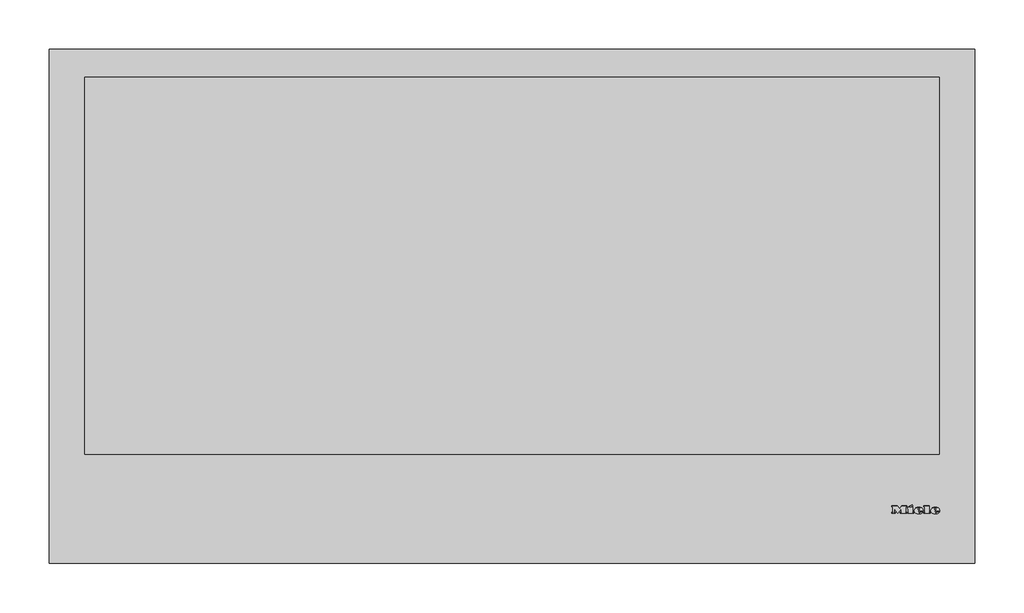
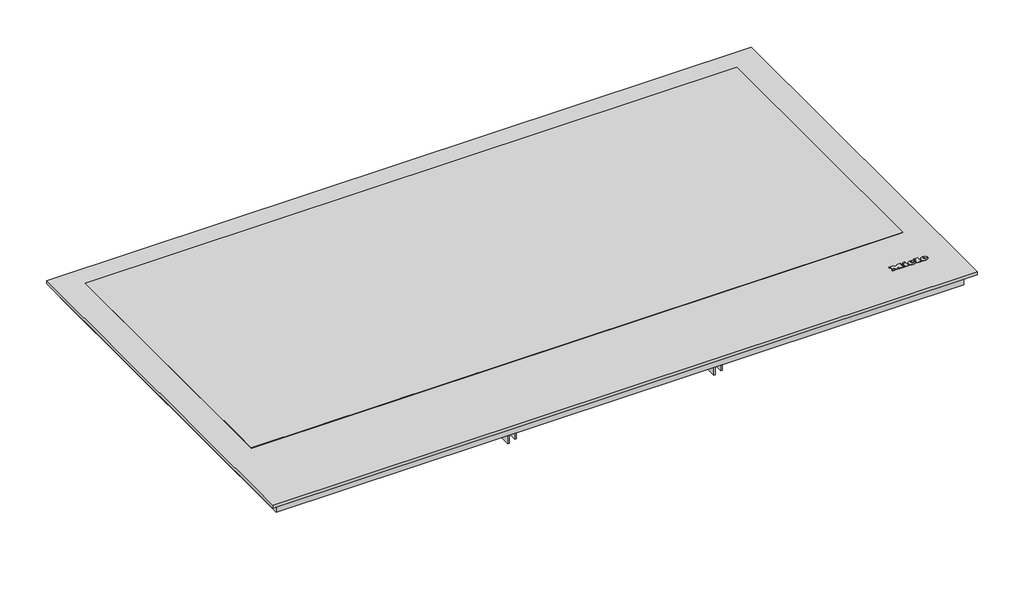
# Not in any storey: 1 proxy.
"""IFC4 building model written with IfcOpenShell, lengths in millimetres."""

import ifcopenshell
import ifcopenshell.guid

model = None  # the IFC model being written
_history = None  # IfcOwnerHistory: only IFC2X3 demands one
_inside = {}  # id of a spatial element -> (the spatial element, [elements in it])
_under = {}  # id of a project, library or spatial element -> (it, [spatial elements below it])
_declared = {}  # id of a project -> (the project, [libraries it declares])
_typed = {}  # id of a type object -> (the type object, [elements of that type])
_made_of = {}  # id of a material, layer set ... -> (it, [elements and type objects made of it])


def new_model(schema):
    """Start an empty IFC model of exactly this schema.

    Asked for "IFC4X3", IfcOpenShell would pick the latest addendum, in which some entities
    have other attributes; the version numbers below select the first issue.
    IFC2X3 requires an IfcOwnerHistory on every rooted entity: one is made here for all.
    """
    global model, _history
    if schema == "IFC4X3":
        model = ifcopenshell.file(schema_version=(4, 3, 0, 0))
    else:
        model = ifcopenshell.file(schema=schema)
    _inside.clear()
    _under.clear()
    _declared.clear()
    _typed.clear()
    _made_of.clear()
    _history = None
    if model.schema == "IFC2X3":
        org = make("IfcOrganization", Name="unknown")
        user = make(
            "IfcPersonAndOrganization",
            ThePerson=make("IfcPerson", FamilyName="unknown"),
            TheOrganization=org,
        )
        app = make(
            "IfcApplication",
            ApplicationDeveloper=org,
            Version="unknown",
            ApplicationFullName="unknown",
            ApplicationIdentifier="unknown",
        )
        _history = make(
            "IfcOwnerHistory",
            OwningUser=user,
            OwningApplication=app,
            ChangeAction="ADDED",
            CreationDate=0,
        )
    return model


def make(cls, **values):
    """One entity of the class cls with the attributes given. An attribute that is None is left unset."""
    return model.create_entity(
        cls, **{name: value for name, value in values.items() if value is not None}
    )


def rooted(cls, **values):
    """An entity with a GlobalId (a new one), such as an element, a storey or a relation."""
    return make(cls, GlobalId=ifcopenshell.guid.new(), OwnerHistory=_history, **values)


def si_unit(unit_type, name, prefix=None):
    """IfcSIUnit, for example si_unit("LENGTHUNIT", "METRE", prefix="MILLI")."""
    return make("IfcSIUnit", UnitType=unit_type, Prefix=prefix, Name=name)


def assignment(units):
    """IfcUnitAssignment: the units of a project."""
    return None if units is None else make("IfcUnitAssignment", Units=units)


def point(xyz):
    """IfcCartesianPoint."""
    return None if xyz is None else make("IfcCartesianPoint", Coordinates=xyz)


def direction(xyz):
    """IfcDirection."""
    return None if xyz is None else make("IfcDirection", DirectionRatios=xyz)


def frame(location, z_axis=None, x_axis=None):
    """IfcAxis2Placement3D, a coordinate frame: its origin and axes. An axis left out is left unset."""
    return make(
        "IfcAxis2Placement3D",
        Location=point(location),
        Axis=direction(z_axis),
        RefDirection=direction(x_axis),
    )


def frame_2d(location, x_axis=None):
    """IfcAxis2Placement2D, a coordinate frame in the plane: its origin and x axis."""
    return make(
        "IfcAxis2Placement2D", Location=point(location), RefDirection=direction(x_axis)
    )


def origin():
    """The frame at (0, 0, 0) with its axes left unset."""
    return frame((0.0, 0.0, 0.0))


def origin_with_axes():
    """The frame at (0, 0, 0) with the z axis (0, 0, 1) and the x axis (1, 0, 0) written out."""
    return frame((0.0, 0.0, 0.0), z_axis=(0.0, 0.0, 1.0), x_axis=(1.0, 0.0, 0.0))


def place(relative_to, where):
    """IfcLocalPlacement: puts the frame where relative to a parent placement (None: the world)."""
    return make(
        "IfcLocalPlacement", PlacementRelTo=relative_to, RelativePlacement=where
    )


def context(
    kind, dimensions, precision=None, world=None, true_north=None, identifier=None
):
    """IfcGeometricRepresentationContext, for example the 3D "Model" context."""
    return make(
        "IfcGeometricRepresentationContext",
        ContextIdentifier=identifier,
        ContextType=kind,
        CoordinateSpaceDimension=dimensions,
        Precision=precision,
        WorldCoordinateSystem=world,
        TrueNorth=true_north,
    )


def project(units=None, contexts=None):
    """IfcProject with its units and contexts."""
    return rooted(
        "IfcProject",
        Name="project",
        RepresentationContexts=contexts,
        UnitsInContext=assignment(units),
    )


def spatial(cls, under=None, at=None, **own):
    """A site, building, storey or space (cls), placed at a placement, below another one or the project."""
    s = rooted(cls, ObjectPlacement=at, **own)
    if under is not None:
        _under.setdefault(under.id(), (under, []))[1].append(s)
    return s


def polyline(points):
    """IfcPolyline through the points."""
    return make("IfcPolyline", Points=[point(p) for p in points])


def circle_curve(where, radius):
    """IfcCircle in the frame where."""
    return make("IfcCircle", Position=where, Radius=radius)


def ellipse_curve(where, semi_axis1, semi_axis2):
    """IfcEllipse in the frame where."""
    return make(
        "IfcEllipse", Position=where, SemiAxis1=semi_axis1, SemiAxis2=semi_axis2
    )


def trimmed(basis, trim1, trim2, sense, master):
    """IfcTrimmedCurve: the piece of a basis curve between two trims."""
    return make(
        "IfcTrimmedCurve",
        BasisCurve=basis,
        Trim1=trim1,
        Trim2=trim2,
        SenseAgreement=sense,
        MasterRepresentation=master,
    )


def segment(curve, same_sense, transition):
    """IfcCompositeCurveSegment."""
    return make(
        "IfcCompositeCurveSegment",
        Transition=transition,
        SameSense=same_sense,
        ParentCurve=curve,
    )


def composite_curve(segments, self_intersect=None):
    """IfcCompositeCurve: segments joined end to end."""
    return make("IfcCompositeCurve", Segments=segments, SelfIntersect=self_intersect)


def outline(outer, holes=None, kind="AREA"):
    """IfcArbitraryClosedProfileDef: a profile drawn as a closed curve; with holes, ...WithVoids."""
    if holes is None:
        return make("IfcArbitraryClosedProfileDef", ProfileType=kind, OuterCurve=outer)
    return make(
        "IfcArbitraryProfileDefWithVoids",
        ProfileType=kind,
        OuterCurve=outer,
        InnerCurves=holes,
    )


def extrude(swept, where, along, depth):
    """IfcExtrudedAreaSolid: the profile swept, set in the frame where, extruded along a direction by depth."""
    return make(
        "IfcExtrudedAreaSolid",
        SweptArea=swept,
        Position=where,
        ExtrudedDirection=direction(along),
        Depth=depth,
    )


def shape(context_of_items, identifier, shape_type, items):
    """IfcShapeRepresentation: the items that make up one representation, for example the "Body"."""
    return make(
        "IfcShapeRepresentation",
        ContextOfItems=context_of_items,
        RepresentationIdentifier=identifier,
        RepresentationType=shape_type,
        Items=items,
    )


def source(mapping_origin, context_of_items, identifier, shape_type, items):
    """IfcRepresentationMap: a shape defined once, which mapped items show again and again."""
    return make(
        "IfcRepresentationMap",
        MappingOrigin=mapping_origin,
        MappedRepresentation=shape(context_of_items, identifier, shape_type, items),
    )


def transform(
    local_origin,
    x_axis=None,
    y_axis=None,
    z_axis=None,
    scale=None,
    scale2=None,
    scale3=None,
    uniform=True,
):
    """IfcCartesianTransformationOperator3D, or its non-uniform kind. x_axis, y_axis, z_axis: its Axis1, 2, 3."""
    if uniform:
        return make(
            "IfcCartesianTransformationOperator3D",
            Axis1=direction(x_axis),
            Axis2=direction(y_axis),
            LocalOrigin=point(local_origin),
            Scale=scale,
            Axis3=direction(z_axis),
        )
    return make(
        "IfcCartesianTransformationOperator3DnonUniform",
        Axis1=direction(x_axis),
        Axis2=direction(y_axis),
        LocalOrigin=point(local_origin),
        Scale=scale,
        Axis3=direction(z_axis),
        Scale2=scale2,
        Scale3=scale3,
    )


def mapped(mapping_source, mapping_target):
    """IfcMappedItem: shows the shape of a source again, moved by a transform."""
    return make(
        "IfcMappedItem", MappingSource=mapping_source, MappingTarget=mapping_target
    )


def made_of(thing, what):
    """Note that an element or type object is made of a material, layer set ...; save() writes the relation."""
    if what is not None:
        _made_of.setdefault(what.id(), (what, []))[1].append(thing)
    return thing


def element(
    cls,
    number,
    at=None,
    inside=None,
    cuts=None,
    type_object=None,
    material=None,
    context=None,
    identifier="Body",
    shape_type=None,
    held_by="IfcProductDefinitionShape",
    body=None,
    shapes=None,
    **own,
):
    """One element of the class cls, such as IfcWall. Its Tag is "e" and its number.

    at: its placement. inside: the storey or other place that contains it. cuts: it is an
    opening in that element (IfcRelVoidsElement). A single representation is given by context,
    identifier, shape_type and body (its items); several are given by shapes. held_by: the class
    of the entity that holds the representations. save() writes the other relations.
    """
    e = rooted(cls, Tag="e%d" % number, ObjectPlacement=at, **own)
    if body is not None:
        shapes = [shape(context, identifier, shape_type, body)]
    if shapes is not None:
        e.Representation = make(held_by, Representations=shapes)
    if inside is not None:
        _inside.setdefault(inside.id(), (inside, []))[1].append(e)
    if cuts is not None:
        rooted(
            "IfcRelVoidsElement", RelatingBuildingElement=cuts, RelatedOpeningElement=e
        )
    if type_object is not None:
        _typed.setdefault(type_object.id(), (type_object, []))[1].append(e)
    return made_of(e, material)


def aggregate(whole, parts):
    """IfcRelAggregates: a whole, such as a stair, and the parts it consists of."""
    return rooted("IfcRelAggregates", RelatingObject=whole, RelatedObjects=parts)


def save(model, path):
    """Write the relations noted so far, then the file.

    IfcRelAggregates (storeys below a building ...), IfcRelContainedInSpatialStructure (elements
    in a storey), IfcRelDefinesByType, IfcRelAssociatesMaterial and IfcRelDeclares: one each for
    every whole, place, type object, material and project.
    """
    for whole, parts in _under.values():
        aggregate(whole, parts)
    for where, things in _inside.values():
        rooted(
            "IfcRelContainedInSpatialStructure",
            RelatedElements=things,
            RelatingStructure=where,
        )
    for kind, things in _typed.values():
        rooted("IfcRelDefinesByType", RelatedObjects=things, RelatingType=kind)
    for what, things in _made_of.values():
        rooted("IfcRelAssociatesMaterial", RelatedObjects=things, RelatingMaterial=what)
    for by, libraries in _declared.values():
        rooted("IfcRelDeclares", RelatingContext=by, RelatedDefinitions=libraries)
    model.write(path)


def plane_surface(at):
    """IfcPlane: the flat surface through the origin of the frame at, square to its z axis."""
    return make("IfcPlane", Position=at)


def cylinder_surface(at, radius):
    """IfcCylindricalSurface: all points at the distance radius from the z axis of the frame at."""
    return make("IfcCylindricalSurface", Position=at, Radius=radius)


def revolved_surface(curve, axis_point, axis_direction):
    """IfcSurfaceOfRevolution: the curve turned about the line through axis_point along axis_direction."""
    return make(
        "IfcSurfaceOfRevolution",
        SweptCurve=make("IfcArbitraryOpenProfileDef", ProfileType="CURVE", Curve=curve),
        AxisPosition=make("IfcAxis1Placement", Location=point(axis_point), Axis=direction(axis_direction)),
    )


def extruded_surface(curve, direction_of_extrusion, depth):
    """IfcSurfaceOfLinearExtrusion: the curve pushed along a direction by depth."""
    return make(
        "IfcSurfaceOfLinearExtrusion",
        SweptCurve=make("IfcArbitraryOpenProfileDef", ProfileType="CURVE", Curve=curve),
        ExtrudedDirection=direction(direction_of_extrusion),
        Depth=depth,
    )


def advanced_brep(points, edges, surfaces, faces):
    """IfcAdvancedBrep: a solid bounded by faces that lie on surfaces and meet in shared edges.

    An edge is (start, end): straight between two places in points (the first is 0);
    or (start, end, curve); or (start, end, curve, False) where it runs against its curve.
    A face is (place in surfaces, loops), or (place, loops, False) where it looks against
    its surface's normal. A loop lists edges by number (the first is 1), with a minus sign
    where the edge is run from its end to its start. The first loop is the outer one.
    """
    corners = [point(p) for p in points]
    vertices = [make("IfcVertexPoint", VertexGeometry=c) for c in corners]
    made = []
    for start, end, *more in edges:
        made.append(
            make(
                "IfcEdgeCurve",
                EdgeStart=vertices[start],
                EdgeEnd=vertices[end],
                EdgeGeometry=more[0] if more else make("IfcPolyline", Points=[corners[start], corners[end]]),
                SameSense=more[1] if len(more) > 1 else True,
            )
        )
    hull = []
    for where, loops, *sense in faces:
        bounds = []
        for j, loop in enumerate(loops):
            ring = [make("IfcOrientedEdge", EdgeElement=made[abs(k) - 1], Orientation=k > 0) for k in loop]
            bounds.append(
                make(
                    "IfcFaceOuterBound" if j == 0 else "IfcFaceBound",
                    Bound=make("IfcEdgeLoop", EdgeList=ring),
                    Orientation=True,
                )
            )
        hull.append(make("IfcAdvancedFace", Bounds=bounds, FaceSurface=surfaces[where], SameSense=sense[0] if sense else True))
    return make("IfcAdvancedBrep", Outer=make("IfcClosedShell", CfsFaces=hull))


def specialty_equipment_4523ea2d(model_context):
    return source(origin(), model_context, "Body", "SolidModel", [
        advanced_brep(
        [(427.56, 52.3948833, 4.4802537), (427.56, 53.2028828, 4.4811551), (432.912, 53.2028828, 4.4811551), (423.6, 53.2028828, 4.4811551), (425.8, 50.4988845, 4.4781386), (432.776, 52.3948833, 4.4802537), (430.36, 52.3948833, 4.4802537), (428.456, 51.4988838, 4.4792542), (427.56, 54.2268821, 4.4822974), (427.56, 55.0988816, 4.4832701), (428.928, 55.0988816, 4.4832701), (428.928, 54.2268821, 4.4822974), (427.56, 52.3959988, 3.4802543), (428.456, 51.4999994, 3.4792548), (430.36, 52.3959988, 3.4802543), (432.776, 52.3959988, 3.4802543), (425.8, 50.5, 3.4781393), (423.6, 53.2039983, 3.4811557), (432.912, 53.2039983, 3.4811557), (427.56, 53.2039983, 3.4811557), (427.56, 54.2279977, 3.482298), (428.928, 54.2279977, 3.482298), (428.928, 55.0999971, 3.4832707), (427.56, 55.0999971, 3.4832707)],
        [
            (0, 1),
            (1, 2),
            (2, 3, ellipse_curve(frame((428.256, 53.2028828, 4.4811551), z_axis=(0.0, -0.0011155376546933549, 0.9999993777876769), x_axis=(-1.0, 0.0, 0.0)), 4.656, 3.848)),
            (3, 4, circle_curve(frame((426.6960436, 53.4748826, 4.4814585), z_axis=(0.0, -0.0011155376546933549, 0.9999993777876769), x_axis=(0.0, -0.9999993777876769, -0.0011155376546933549)), 3.1079688)),
            (4, 5, circle_curve(frame((428.1627936, 55.5868813, 4.4838145), z_axis=(0.0, -0.0011155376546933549, 0.9999993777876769), x_axis=(0.0, -0.9999993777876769, -0.0011155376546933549)), 5.6098607)),
            (5, 6),
            (6, 7, circle_curve(frame((428.8470588, 53.1388828, 4.4810837), z_axis=(0.0, 0.0011155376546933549, -0.9999993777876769), x_axis=(0.0, -0.9999993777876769, -0.0011155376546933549)), 1.6859795)),
            (7, 0, circle_curve(frame((428.456, 52.3948833, 4.4802537), z_axis=(0.0, 0.0011155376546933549, -0.9999993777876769), x_axis=(0.0, -0.9999993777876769, -0.0011155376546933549)), 0.896)),
            (8, 9),
            (9, 10, circle_curve(frame((428.244, 55.0988816, 4.4832701), z_axis=(0.0, 0.0011155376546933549, -0.9999993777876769), x_axis=(0.0, -0.9999993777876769, -0.0011155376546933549)), 0.684)),
            (10, 11),
            (11, 8),
            (12, 13, circle_curve(frame((428.456, 52.3959988, 3.4802543), z_axis=(0.0, -0.0011155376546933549, 0.9999993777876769), x_axis=(0.0, -0.9999993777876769, -0.0011155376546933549)), 0.896)),
            (13, 14, circle_curve(frame((428.8470588, 53.1399984, 3.4810843), z_axis=(0.0, -0.0011155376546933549, 0.9999993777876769), x_axis=(0.0, -0.9999993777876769, -0.0011155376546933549)), 1.6859795)),
            (14, 15),
            (15, 16, circle_curve(frame((428.1627936, 55.5879968, 3.4838151), z_axis=(0.0, 0.0011155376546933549, -0.9999993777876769), x_axis=(0.0, -0.9999993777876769, -0.0011155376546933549)), 5.6098607)),
            (16, 17, circle_curve(frame((426.6960436, 53.4759981, 3.4814591), z_axis=(0.0, 0.0011155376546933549, -0.9999993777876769), x_axis=(0.0, -0.9999993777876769, -0.0011155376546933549)), 3.1079688)),
            (17, 18, ellipse_curve(frame((428.256, 53.2039983, 3.4811557), z_axis=(0.0, 0.0011155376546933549, -0.9999993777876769), x_axis=(-1.0, 0.0, 0.0)), 4.656, 3.848)),
            (18, 19),
            (19, 12),
            (20, 21),
            (21, 22),
            (22, 23, circle_curve(frame((428.244, 55.0999971, 3.4832707), z_axis=(0.0, -0.0011155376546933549, 0.9999993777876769), x_axis=(0.0, -0.9999993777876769, -0.0011155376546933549)), 0.684)),
            (23, 20),
            (0, 12),
            (19, 1),
            (18, 2),
            (5, 15),
            (14, 6),
            (17, 3),
            (13, 7),
            (16, 4),
            (8, 20),
            (23, 9),
            (22, 10),
            (21, 11),
        ],
        [
            plane_surface(frame((427.56, 53.2028828, 4.4811551), z_axis=(0.0, -0.0011155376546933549, 0.9999993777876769), x_axis=(0.0, 0.9999993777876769, 0.0011155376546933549))),
            plane_surface(frame((427.56, 53.2039983, 3.4811557), z_axis=(0.0, 0.0011155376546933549, -0.9999993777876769), x_axis=(0.0, -0.9999993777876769, -0.0011155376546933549))),
            plane_surface(frame((427.56, 52.3948833, 4.4802537), z_axis=(1.0000000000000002, 0.0, 0.0), x_axis=(0.0, 0.001115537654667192, -0.999999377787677))),
            plane_surface(frame((427.56, 53.2028828, 4.4811551), z_axis=(0.0, -0.999999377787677, -0.001115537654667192), x_axis=(0.0, 0.001115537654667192, -0.999999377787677))),
            plane_surface(frame((432.776, 52.3948833, 4.4802537), z_axis=(0.0, 0.999999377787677, 0.001115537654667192), x_axis=(0.0, 0.001115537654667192, -0.999999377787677))),
            extruded_surface(trimmed(ellipse_curve(frame((428.256, 53.2051139, 2.4811563), z_axis=(0.0, -0.0011155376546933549, 0.9999993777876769), x_axis=(-1.0, 0.0, 0.0)), 4.656, 3.848), [point((432.912, 53.2051139, 2.4811563))], [point((423.6, 53.2051139, 2.4811563))], True, "CARTESIAN"), (0.0, -0.001115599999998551, 0.9999994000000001), 1.00000002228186),
            revolved_surface(polyline([(428.8470588, 51.454019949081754, 3.479203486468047), (428.8470588, 51.45290441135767, 4.4792029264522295)]), (428.8470588, 53.1399984, 3.4810843), (0.0, 0.0011155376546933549, -0.9999993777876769)),
            revolved_surface(polyline([(428.456, 51.49999935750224, 3.4792547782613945), (428.456, 51.49888381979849, 4.479254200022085)]), (428.456, 52.3959988, 3.4802543), (0.0, 0.0011155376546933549, -0.9999993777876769)),
            cylinder_surface(frame((426.6960436, 53.4759981, 3.4814591), z_axis=(0.0, -0.0011155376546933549, 0.9999993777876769), x_axis=(0.0, -0.9999993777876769, -0.0011155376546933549)), 3.1079688),
            cylinder_surface(frame((428.1627936, 55.5879968, 3.4838151), z_axis=(0.0, -0.0011155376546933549, 0.9999993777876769), x_axis=(0.0, -0.9999993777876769, -0.0011155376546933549)), 5.6098607),
            plane_surface(frame((427.56, 54.2268821, 4.4822974), z_axis=(1.0000000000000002, 0.0, 0.0), x_axis=(0.0, 0.001115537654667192, -0.999999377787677))),
            revolved_surface(polyline([(428.244, 54.415997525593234, 3.4825076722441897), (428.244, 54.41488198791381, 4.482507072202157)]), (428.244, 55.0999971, 3.4832707), (0.0, 0.0011155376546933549, -0.9999993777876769)),
            plane_surface(frame((428.928, 55.0988816, 4.4832701), z_axis=(-1.0000000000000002, 0.0, 0.0), x_axis=(0.0, 0.001115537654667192, -0.999999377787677))),
            plane_surface(frame((428.928, 54.2268821, 4.4822974), z_axis=(0.0, 0.999999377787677, 0.001115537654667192), x_axis=(0.0, 0.001115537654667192, -0.999999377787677))),
        ],
        [
            (0, [[1, 2, 3, 4, 5, 6, 7, 8], [9, 10, 11, 12]]),
            (1, [[13, 14, 15, 16, 17, 18, 19, 20], [21, 22, 23, 24]]),
            (2, [[-1, 25, -20, 26]]),
            (3, [[-2, -26, -19, 27]]),
            (4, [[-6, 28, -15, 29]]),
            (5, [[-3, -27, -18, 30]]),
            (6, [[-7, -29, -14, 31]]),
            (7, [[-8, -31, -13, -25]]),
            (8, [[-4, -30, -17, 32]]),
            (9, [[-5, -32, -16, -28]]),
            (10, [[-9, 33, -24, 34]]),
            (11, [[-10, -34, -23, 35]]),
            (12, [[-11, -35, -22, 36]]),
            (13, [[-12, -36, -21, -33]]),
        ],
    ),
        advanced_brep(
        [(410.864, 52.3948833, 4.4802537), (410.864, 53.2028828, 4.4811551), (416.216, 53.2028828, 4.4811551), (406.904, 53.2028828, 4.4811551), (409.104, 50.4988845, 4.4781386), (416.08, 52.3948833, 4.4802537), (413.664, 52.3948833, 4.4802537), (411.76, 51.4988838, 4.4792542), (410.864, 54.2268821, 4.4822974), (410.864, 55.0988816, 4.4832701), (412.232, 55.0988816, 4.4832701), (412.232, 54.2268821, 4.4822974), (410.864, 52.3959988, 3.4802543), (411.76, 51.4999994, 3.4792548), (413.664, 52.3959988, 3.4802543), (416.08, 52.3959988, 3.4802543), (409.104, 50.5, 3.4781393), (406.904, 53.2039983, 3.4811557), (416.216, 53.2039983, 3.4811557), (410.864, 53.2039983, 3.4811557), (410.864, 54.2279977, 3.482298), (412.232, 54.2279977, 3.482298), (412.232, 55.0999971, 3.4832707), (410.864, 55.0999971, 3.4832707)],
        [
            (0, 1),
            (1, 2),
            (2, 3, ellipse_curve(frame((411.56, 53.2028828, 4.4811551), z_axis=(0.0, -0.0011155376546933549, 0.9999993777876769), x_axis=(-1.0, 0.0, 0.0)), 4.656, 3.848)),
            (3, 4, circle_curve(frame((410.0000436, 53.4748826, 4.4814585), z_axis=(0.0, -0.0011155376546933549, 0.9999993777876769), x_axis=(0.0, -0.9999993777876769, -0.0011155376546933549)), 3.1079688)),
            (4, 5, circle_curve(frame((411.4667936, 55.5868813, 4.4838145), z_axis=(0.0, -0.0011155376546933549, 0.9999993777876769), x_axis=(0.0, -0.9999993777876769, -0.0011155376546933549)), 5.6098607)),
            (5, 6),
            (6, 7, circle_curve(frame((412.1510588, 53.1388828, 4.4810837), z_axis=(0.0, 0.0011155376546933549, -0.9999993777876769), x_axis=(0.0, -0.9999993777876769, -0.0011155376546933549)), 1.6859795)),
            (7, 0, circle_curve(frame((411.76, 52.3948833, 4.4802537), z_axis=(0.0, 0.0011155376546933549, -0.9999993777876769), x_axis=(0.0, -0.9999993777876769, -0.0011155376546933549)), 0.896)),
            (8, 9),
            (9, 10, circle_curve(frame((411.548, 55.0988816, 4.4832701), z_axis=(0.0, 0.0011155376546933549, -0.9999993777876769), x_axis=(0.0, -0.9999993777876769, -0.0011155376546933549)), 0.684)),
            (10, 11),
            (11, 8),
            (12, 13, circle_curve(frame((411.76, 52.3959988, 3.4802543), z_axis=(0.0, -0.0011155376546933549, 0.9999993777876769), x_axis=(0.0, -0.9999993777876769, -0.0011155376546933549)), 0.896)),
            (13, 14, circle_curve(frame((412.1510588, 53.1399984, 3.4810843), z_axis=(0.0, -0.0011155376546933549, 0.9999993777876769), x_axis=(0.0, -0.9999993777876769, -0.0011155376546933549)), 1.6859795)),
            (14, 15),
            (15, 16, circle_curve(frame((411.4667936, 55.5879968, 3.4838151), z_axis=(0.0, 0.0011155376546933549, -0.9999993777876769), x_axis=(0.0, -0.9999993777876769, -0.0011155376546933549)), 5.6098607)),
            (16, 17, circle_curve(frame((410.0000436, 53.4759981, 3.4814591), z_axis=(0.0, 0.0011155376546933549, -0.9999993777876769), x_axis=(0.0, -0.9999993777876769, -0.0011155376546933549)), 3.1079688)),
            (17, 18, ellipse_curve(frame((411.56, 53.2039983, 3.4811557), z_axis=(0.0, 0.0011155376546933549, -0.9999993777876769), x_axis=(-1.0, 0.0, 0.0)), 4.656, 3.848)),
            (18, 19),
            (19, 12),
            (20, 21),
            (21, 22),
            (22, 23, circle_curve(frame((411.548, 55.0999971, 3.4832707), z_axis=(0.0, -0.0011155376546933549, 0.9999993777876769), x_axis=(0.0, -0.9999993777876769, -0.0011155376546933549)), 0.684)),
            (23, 20),
            (0, 12),
            (19, 1),
            (18, 2),
            (5, 15),
            (14, 6),
            (17, 3),
            (13, 7),
            (16, 4),
            (8, 20),
            (23, 9),
            (22, 10),
            (21, 11),
        ],
        [
            plane_surface(frame((410.864, 53.2028828, 4.4811551), z_axis=(0.0, -0.0011155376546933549, 0.9999993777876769), x_axis=(0.0, 0.9999993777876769, 0.0011155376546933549))),
            plane_surface(frame((410.864, 53.2039983, 3.4811557), z_axis=(0.0, 0.0011155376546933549, -0.9999993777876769), x_axis=(0.0, -0.9999993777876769, -0.0011155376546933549))),
            plane_surface(frame((410.864, 52.3948833, 4.4802537), z_axis=(1.0000000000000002, 0.0, 0.0), x_axis=(0.0, 0.001115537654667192, -0.999999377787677))),
            plane_surface(frame((410.864, 53.2028828, 4.4811551), z_axis=(0.0, -0.999999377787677, -0.001115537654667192), x_axis=(0.0, 0.001115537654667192, -0.999999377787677))),
            plane_surface(frame((416.08, 52.3948833, 4.4802537), z_axis=(0.0, 0.999999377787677, 0.001115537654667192), x_axis=(0.0, 0.001115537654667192, -0.999999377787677))),
            extruded_surface(trimmed(ellipse_curve(frame((411.56, 53.2051139, 2.4811563), z_axis=(0.0, -0.0011155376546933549, 0.9999993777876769), x_axis=(-1.0, 0.0, 0.0)), 4.656, 3.848), [point((416.216, 53.2051139, 2.4811563))], [point((406.904, 53.2051139, 2.4811563))], True, "CARTESIAN"), (0.0, -0.001115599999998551, 0.9999994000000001), 1.00000002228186),
            revolved_surface(polyline([(412.1510588, 51.454019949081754, 3.479203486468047), (412.1510588, 51.45290441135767, 4.4792029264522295)]), (412.1510588, 53.1399984, 3.4810843), (0.0, 0.0011155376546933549, -0.9999993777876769)),
            revolved_surface(polyline([(411.76, 51.49999935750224, 3.4792547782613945), (411.76, 51.49888381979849, 4.479254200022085)]), (411.76, 52.3959988, 3.4802543), (0.0, 0.0011155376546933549, -0.9999993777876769)),
            cylinder_surface(frame((410.0000436, 53.4759981, 3.4814591), z_axis=(0.0, -0.0011155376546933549, 0.9999993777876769), x_axis=(0.0, -0.9999993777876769, -0.0011155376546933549)), 3.1079688),
            cylinder_surface(frame((411.4667936, 55.5879968, 3.4838151), z_axis=(0.0, -0.0011155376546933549, 0.9999993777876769), x_axis=(0.0, -0.9999993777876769, -0.0011155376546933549)), 5.6098607),
            plane_surface(frame((410.864, 54.2268821, 4.4822974), z_axis=(1.0000000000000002, 0.0, 0.0), x_axis=(0.0, 0.001115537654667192, -0.999999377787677))),
            revolved_surface(polyline([(411.548, 54.415997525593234, 3.4825076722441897), (411.548, 54.41488198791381, 4.482507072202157)]), (411.548, 55.0999971, 3.4832707), (0.0, 0.0011155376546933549, -0.9999993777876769)),
            plane_surface(frame((412.232, 55.0988816, 4.4832701), z_axis=(-1.0000000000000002, 0.0, 0.0), x_axis=(0.0, 0.001115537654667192, -0.999999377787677))),
            plane_surface(frame((412.232, 54.2268821, 4.4822974), z_axis=(0.0, 0.999999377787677, 0.001115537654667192), x_axis=(0.0, 0.001115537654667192, -0.999999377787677))),
        ],
        [
            (0, [[1, 2, 3, 4, 5, 6, 7, 8], [9, 10, 11, 12]]),
            (1, [[13, 14, 15, 16, 17, 18, 19, 20], [21, 22, 23, 24]]),
            (2, [[-1, 25, -20, 26]]),
            (3, [[-2, -26, -19, 27]]),
            (4, [[-6, 28, -15, 29]]),
            (5, [[-3, -27, -18, 30]]),
            (6, [[-7, -29, -14, 31]]),
            (7, [[-8, -31, -13, -25]]),
            (8, [[-4, -30, -17, 32]]),
            (9, [[-5, -32, -16, -28]]),
            (10, [[-9, 33, -24, 34]]),
            (11, [[-10, -34, -23, 35]]),
            (12, [[-11, -35, -22, 36]]),
            (13, [[-12, -36, -21, -33]]),
        ],
    ),
        extrude(outline(polyline([(0.0, 0.0), (-0.0109086, -2.9993294), (-1.4390415, -2.9920868), (-1.4315307, 0.0), (0.0, 0.0)])), frame((402.12, 58.0279953, 3.486537), z_axis=(0.0, -0.001115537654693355, 0.999999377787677), x_axis=(-0.4247202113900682, 0.9053240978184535, 0.0010099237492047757)), (0.0, 0.0, 1.0), 1.0),
        extrude(outline(polyline([(-0.4933908, 2.4141097), (-2.7800844, -2.4601583), (-7.0459741, -0.4588767), (-7.4401145, -1.299018), (-8.6568709, -0.728194), (-5.9760369, 4.9862153), (-4.7592805, 4.4153913), (-5.1636142, 3.5535222), (-2.1941493, 2.1604399), (-1.7898157, 3.022309), (-0.4933908, 2.4141097)])), frame((402.12, 58.0279953, 3.486537), z_axis=(0.0, -0.001115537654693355, 0.999999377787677), x_axis=(-0.4247202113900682, 0.9053240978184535, 0.0010099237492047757)), (0.0, 0.0, 1.0), 1.0),
        extrude(outline(polyline([(0.0, 0.0), (0.0, -1.304), (-5.504, -1.304), (-5.504, 5.3519999), (-6.488, 5.3519999), (-6.488, 6.696), (0.0, 6.696), (0.0, 5.3519999), (-0.96, 5.3519999), (-0.96, 0.0), (0.0, 0.0)])), frame((416.664, 57.1959958, 3.4856089), z_axis=(0.0, -0.0011155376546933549, 0.9999993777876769), x_axis=(-1.0, 0.0, 0.0)), (0.0, 0.0, 1.0), 1.0),
        extrude(outline(polyline([(0.0, 0.0), (0.0, -1.304), (-5.576, -1.304), (-7.92, 1.696), (-10.256, -1.304), (-15.128, -1.304), (-15.128, 0.0), (-14.112, 0.0), (-14.112, 5.3519999), (-15.128, 5.3519999), (-15.128, 6.696), (-8.744, 6.696), (-8.744, 5.3519999), (-9.728, 5.3519999), (-9.728, 1.8807777), (-6.136, 6.696), (-2.56, 1.9488752), (-2.56, 5.3519999), (-3.52, 5.3519999), (-3.52, 6.696), (0.0, 6.696), (0.0, 5.3519999), (-0.968, 5.3519999), (-0.968, 0.0), (0.0, 0.0)])), frame((384.2, 57.1959958, 3.4856089), z_axis=(0.0, -0.0011155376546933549, 0.9999993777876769), x_axis=(-1.0, 0.0, 0.0)), (0.0, 0.0, 1.0), 1.0),
        extrude(outline(polyline([(354.2772603, 459.5), (346.9, 459.5), (346.9, 460.7557039), (353.0215564, 460.7557039), (353.0215564, 464.0519266), (347.370889, 464.0519266), (347.370889, 465.3076304), (353.0215564, 465.3076304), (353.0215564, 468.2899271), (347.056963, 468.2899271), (347.056963, 469.545631), (354.2772603, 469.545631), (354.2772603, 459.5)])), frame((0.0, 0.0, -77.5), z_axis=(0.0, 0.0, 1.0), x_axis=(1.0, 0.0, 0.0)), (0.0, 0.0, 1.0), 1.0),
        extrude(outline(polyline([(345.0164442, 459.5), (338.7379248, 459.5), (338.7379248, 460.7557039), (343.7607403, 460.7557039), (343.7607403, 469.545631), (345.0164442, 469.545631), (345.0164442, 459.5)])), frame((0.0, 0.0, -77.5), z_axis=(0.0, 0.0, 1.0), x_axis=(1.0, 0.0, 0.0)), (0.0, 0.0, 1.0), 1.0),
        extrude(outline(polyline([(14.0, -27.0), (14.0, -16.8), (58.0, -16.8), (58.0, -43.0), (30.0, -43.0), (30.0, -27.0), (14.0, -27.0)])), frame((135.3333333, 0.0, 0.0), z_axis=(1.0, 0.0, 0.0), x_axis=(0.0, 1.0, 0.0)), (0.0, 0.0, 1.0), 2.0),
        extrude(outline(polyline([(478.0, -16.8), (506.0, -16.8), (506.0, -27.0), (490.0, -27.0), (490.0, -43.0), (478.0, -43.0), (478.0, -16.8)])), frame((135.3333333, 0.0, 0.0), z_axis=(1.0, 0.0, 0.0), x_axis=(0.0, 1.0, 0.0)), (0.0, 0.0, 1.0), 2.0),
        extrude(outline(polyline([(14.0, -27.0), (14.0, -16.8), (58.0, -16.8), (58.0, -43.0), (30.0, -43.0), (30.0, -27.0), (14.0, -27.0)])), frame((-138.3333333, 0.0, 0.0), z_axis=(1.0, 0.0, 0.0), x_axis=(0.0, 1.0, 0.0)), (0.0, 0.0, 1.0), 2.0),
        extrude(outline(polyline([(490.0, -27.0), (490.0, -43.0), (478.0, -43.0), (478.0, -16.8), (506.0, -16.8), (506.0, -27.0), (490.0, -27.0)])), frame((-138.3333333, 0.0, 0.0), z_axis=(1.0, 0.0, 0.0), x_axis=(0.0, 1.0, 0.0)), (0.0, 0.0, 1.0), 2.0),
        extrude(outline(polyline([(409.0, 478.0), (409.0, 58.0), (-409.0, 58.0), (-409.0, 478.0), (409.0, 478.0)])), frame((0.0, 0.0, -46.5), z_axis=(0.0, 0.0, 1.0), x_axis=(1.0, 0.0, 0.0)), (0.0, 0.0, 1.0), 29.7),
        extrude(outline(polyline([(468.0, 520.0), (468.0, 0.0), (-468.0, 0.0), (-468.0, 520.0), (468.0, 520.0)])), origin_with_axes(), (0.0, 0.0, 1.0), 4.0),
        extrude(outline(polyline([(456.5, 508.5), (456.5, 11.5), (-456.5, 11.5), (-456.5, 508.5), (456.5, 508.5)])), frame((0.0, 0.0, -16.8), z_axis=(0.0, 0.0, 1.0), x_axis=(1.0, 0.0, 0.0)), (0.0, 0.0, 1.0), 16.8),
        extrude(outline(composite_curve([segment(trimmed(circle_curve(frame_2d((346.9, 464.5)), 7.5), [point((346.9, 472.0))], [point((346.9, 457.0))], False, "CARTESIAN"), True, "CONTINUOUS"), segment(trimmed(circle_curve(frame_2d((346.9, 464.5)), 7.5), [point((346.9, 457.0))], [point((346.9, 472.0))], False, "CARTESIAN"), True, "CONTINUOUS")], self_intersect=False)), frame((0.0, 0.0, -76.5), z_axis=(0.0, 0.0, 1.0), x_axis=(1.0, 0.0, 0.0)), (0.0, 0.0, 1.0), 30.0),
        extrude(outline(polyline([(432.5, 492.05), (432.5, 110.55), (-432.5, 110.55), (-432.5, 492.05), (432.5, 492.05)])), frame((0.0, 0.0, 4.0), z_axis=(0.0, 0.0, 1.0), x_axis=(1.0, 0.0, 0.0)), (0.0, 0.0, 1.0), 1.0),
        extrude(outline(composite_curve([segment(trimmed(circle_curve(frame_2d((-449.0, 80.0)), 3.0), [point((-449.0, 83.0))], [point((-449.0, 77.0))], False, "CARTESIAN"), True, "CONTINUOUS"), segment(trimmed(circle_curve(frame_2d((-449.0, 80.0)), 3.0), [point((-449.0, 77.0))], [point((-449.0, 83.0))], False, "CARTESIAN"), True, "CONTINUOUS")], self_intersect=False)), frame((0.0, 0.0, -22.0), z_axis=(0.0, 0.0, 1.0), x_axis=(1.0, 0.0, 0.0)), (0.0, 0.0, 1.0), 5.2),
        extrude(outline(composite_curve([segment(trimmed(circle_curve(frame_2d((449.0, 440.0)), 3.0), [point((449.0, 443.0))], [point((449.0, 437.0))], False, "CARTESIAN"), True, "CONTINUOUS"), segment(trimmed(circle_curve(frame_2d((449.0, 440.0)), 3.0), [point((449.0, 437.0))], [point((449.0, 443.0))], False, "CARTESIAN"), True, "CONTINUOUS")], self_intersect=False)), frame((0.0, 0.0, -22.0), z_axis=(0.0, 0.0, 1.0), x_axis=(1.0, 0.0, 0.0)), (0.0, 0.0, 1.0), 5.2),
    ])


model = new_model("IFC4")

# Units and contexts
model_context = context("Model", 3, world=origin())
ifc_project = project(units=[si_unit("LENGTHUNIT", "METRE", prefix="MILLI")], contexts=[model_context])

# Site, building
site = spatial("IfcSite", under=ifc_project)
building = spatial("IfcBuilding", under=site)

# Proxy
placement = place(None, origin())
specialty_equipment_shape = specialty_equipment_4523ea2d(model_context)
element("IfcBuildingElementProxy", 1, Name="11128750_D_KM7697FL : 26769770_D_11128750_KM7697FL", ObjectType="11128750_D_KM7697FL : 26769770_D_11128750_KM7697FL", at=placement, inside=building, context=model_context, shape_type="MappedRepresentation", body=[
    mapped(specialty_equipment_shape, transform((0.0, 0.0, 0.0), x_axis=(1.0, 0.0, 0.0), y_axis=(0.0, 1.0, 0.0), z_axis=(0.0, 0.0, 1.0))),
])

save(model, "model.ifc")
